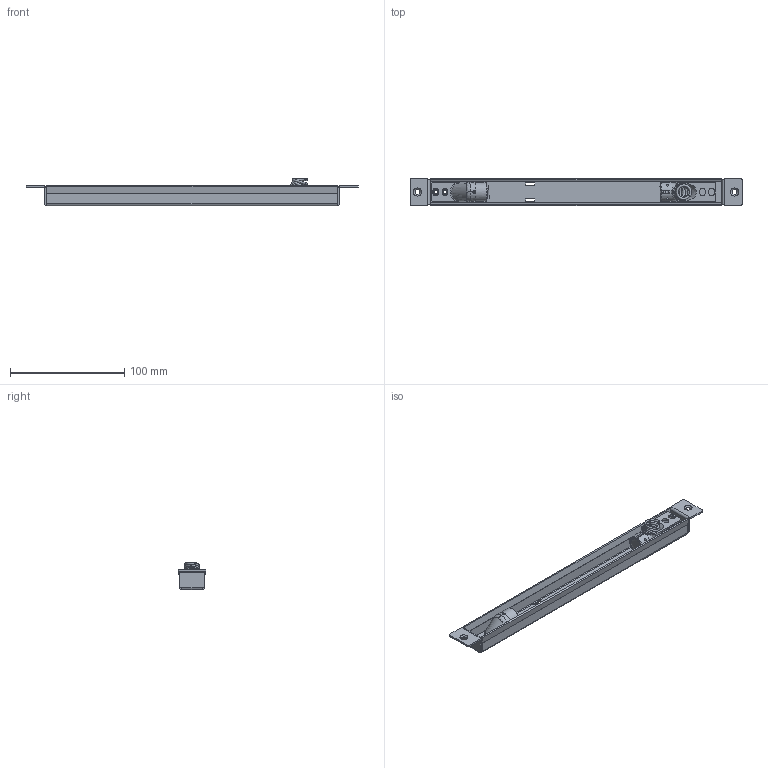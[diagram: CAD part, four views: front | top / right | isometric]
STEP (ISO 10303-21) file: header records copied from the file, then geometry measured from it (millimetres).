
FILE_DESCRIPTION((''),'2;1');
FILE_NAME('S:\Projekte\00 00 Datenarchiv\00.50- Kabelübergänge\M 11 90.stp','2011-08-17T12:18:20',('jsuarez'),(''),'Autodesk Inventor 2012','Autodesk Inventor 2012','');
FILE_SCHEMA(('AUTOMOTIVE_DESIGN { 1 0 10303 214 1 1 1 1 }'));
Length unit declared in the file: millimetre
Products named in the file (3): M 11 90; 9100006- Einbaukasten 290; M 11 92
Assembly tree (2 placements, depth 2):
  M 11 90
    9100006- Einbaukasten 290
    M 11 92
Bounding box: 290 x 24.03 x 24.12 mm (x, y, z)
Volume: 34312.7 mm3; surface area: 57505.9 mm2
Topology: 2 solids, 2 shells, 276 faces, 786 edges, 483 vertices
Faces by surface type: plane 102, cylinder 75, bspline 72, cone 15, revolution 5, sphere 5, torus 2
Full cylindrical faces by diameter (mm): 2 x2, 3.242 x2, 4.5 x2, 4.7 x2
Entity records: 24801 total; most frequent: CARTESIAN_POINT 18044, ORIENTED_EDGE 1522, DIRECTION 1062, EDGE_CURVE 761, VERTEX_POINT 470, AXIS2_PLACEMENT_3D 387, EDGE_LOOP 343, B_SPLINE_CURVE_WITH_KNOTS 293
